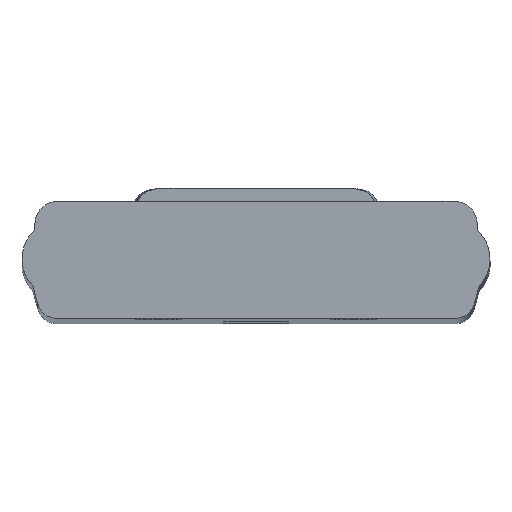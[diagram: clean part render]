
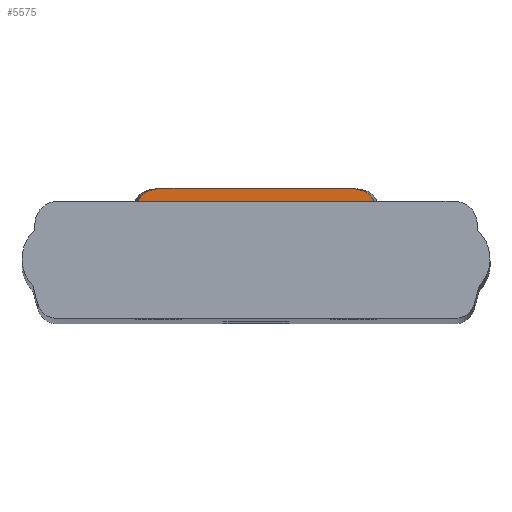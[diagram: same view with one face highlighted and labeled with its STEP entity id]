
A CAD part, top view. The second image highlights one B-rep face of the part: STEP entity #5575.
In plain terms, the highlighted planar face has unit normal (0, 0, 1).
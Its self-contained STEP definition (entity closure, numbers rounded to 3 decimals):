
#24 = DIRECTION ( 'NONE',  ( -1., 0., 0. ) ) ;
#42 = DIRECTION ( 'NONE',  ( -1., 0., 0. ) ) ;
#44 = CARTESIAN_POINT ( 'NONE',  ( 8.988, 7.422, 289.98 ) ) ;
#251 = CARTESIAN_POINT ( 'NONE',  ( 8.672, 0.753, 289.98 ) ) ;
#270 = DIRECTION ( 'NONE',  ( 1., 0., 0. ) ) ;
#405 = DIRECTION ( 'NONE',  ( 1., 0., 0. ) ) ;
#408 = DIRECTION ( 'NONE',  ( 0., 0., -1. ) ) ;
#409 = CARTESIAN_POINT ( 'NONE',  ( -8.672, 0.753, 289.98 ) ) ;
#417 = CARTESIAN_POINT ( 'NONE',  ( -8.988, 7.422, 289.98 ) ) ;
#419 = DIRECTION ( 'NONE',  ( -1., 0., 0. ) ) ;
#425 = CARTESIAN_POINT ( 'NONE',  ( -8.988, 7.422, 289.98 ) ) ;
#432 = DIRECTION ( 'NONE',  ( 0., 0., 1. ) ) ;
#437 = DIRECTION ( 'NONE',  ( -1., 0., 0. ) ) ;
#438 = DIRECTION ( 'NONE',  ( 0., 0., 1. ) ) ;
#439 = CARTESIAN_POINT ( 'NONE',  ( 9.66, 5.289, 289.98 ) ) ;
#440 = DIRECTION ( 'NONE',  ( 1., 0., 0. ) ) ;
#441 = DIRECTION ( 'NONE',  ( 0., 0., -1. ) ) ;
#442 = CARTESIAN_POINT ( 'NONE',  ( -9.66, 5.289, 289.98 ) ) ;
#677 = ORIENTED_EDGE ( 'NONE', *, *, #4524, .F. ) ;
#684 = ORIENTED_EDGE ( 'NONE', *, *, #4529, .F. ) ;
#699 = ORIENTED_EDGE ( 'NONE', *, *, #4530, .F. ) ;
#760 = ORIENTED_EDGE ( 'NONE', *, *, #4351, .T. ) ;
#761 = ORIENTED_EDGE ( 'NONE', *, *, #4527, .T. ) ;
#767 = ORIENTED_EDGE ( 'NONE', *, *, #4525, .T. ) ;
#774 = ORIENTED_EDGE ( 'NONE', *, *, #4528, .T. ) ;
#798 = ORIENTED_EDGE ( 'NONE', *, *, #4526, .T. ) ;
#1169 = EDGE_LOOP ( 'NONE', ( #677, #760, #767, #798, #761, #774, #684, #699 ) ) ;
#1548 = CARTESIAN_POINT ( 'NONE',  ( -8.988, 7.422, 289.98 ) ) ;
#1658 = CARTESIAN_POINT ( 'NONE',  ( -11.52, 6.118, 289.98 ) ) ;
#1668 = CARTESIAN_POINT ( 'NONE',  ( -8.573, 7.422, 289.98 ) ) ;
#1753 = CARTESIAN_POINT ( 'NONE',  ( 9.994, 7.298, 289.98 ) ) ;
#1762 = CARTESIAN_POINT ( 'NONE',  ( -9.994, 7.298, 289.98 ) ) ;
#1779 = CARTESIAN_POINT ( 'NONE',  ( 8.988, 7.422, 289.98 ) ) ;
#1808 = CARTESIAN_POINT ( 'NONE',  ( 8.573, 7.422, 289.98 ) ) ;
#2115 = CARTESIAN_POINT ( 'NONE',  ( 11.519, 6.121, 289.98 ) ) ;
#2432 = DIRECTION ( 'NONE',  ( 1., 0., 0. ) ) ;
#2514 = CARTESIAN_POINT ( 'NONE',  ( -19.5, 6.117, 289.98 ) ) ;
#2885 = VERTEX_POINT ( 'NONE', #1762 ) ;
#2890 = VERTEX_POINT ( 'NONE', #1753 ) ;
#2920 = VERTEX_POINT ( 'NONE', #1658 ) ;
#2929 = VERTEX_POINT ( 'NONE', #1668 ) ;
#2968 = VERTEX_POINT ( 'NONE', #1548 ) ;
#2971 = VERTEX_POINT ( 'NONE', #1779 ) ;
#3056 = VERTEX_POINT ( 'NONE', #1808 ) ;
#3079 = VERTEX_POINT ( 'NONE', #2115 ) ;
#3362 = LINE ( 'NONE', #2514, #3365 ) ;
#3365 = VECTOR ( 'NONE', #2432, 1000. ) ;
#3598 = CIRCLE ( 'NONE', #4817, 6.677 ) ;
#3601 = CIRCLE ( 'NONE', #4814, 2.037 ) ;
#3602 = CIRCLE ( 'NONE', #4815, 2.037 ) ;
#3603 = CIRCLE ( 'NONE', #4816, 6.677 ) ;
#3604 = LINE ( 'NONE', #44, #3606 ) ;
#3605 = LINE ( 'NONE', #425, #3608 ) ;
#3606 = VECTOR ( 'NONE', #42, 1000. ) ;
#3607 = LINE ( 'NONE', #417, #3610 ) ;
#3608 = VECTOR ( 'NONE', #419, 1000. ) ;
#3610 = VECTOR ( 'NONE', #270, 1000. ) ;
#4103 = FACE_OUTER_BOUND ( 'NONE', #1169, .T. ) ;
#4351 = EDGE_CURVE ( 'NONE', #2920, #3079, #3362, .T. ) ;
#4524 = EDGE_CURVE ( 'NONE', #2920, #2885, #3601, .T. ) ;
#4525 = EDGE_CURVE ( 'NONE', #3079, #2890, #3602, .T. ) ;
#4526 = EDGE_CURVE ( 'NONE', #2890, #2971, #3603, .T. ) ;
#4527 = EDGE_CURVE ( 'NONE', #2971, #3056, #3604, .T. ) ;
#4528 = EDGE_CURVE ( 'NONE', #3056, #2929, #3605, .T. ) ;
#4529 = EDGE_CURVE ( 'NONE', #2968, #2929, #3607, .T. ) ;
#4530 = EDGE_CURVE ( 'NONE', #2885, #2968, #3598, .T. ) ;
#4814 = AXIS2_PLACEMENT_3D ( 'NONE', #442, #441, #440 ) ;
#4815 = AXIS2_PLACEMENT_3D ( 'NONE', #439, #438, #437 ) ;
#4816 = AXIS2_PLACEMENT_3D ( 'NONE', #251, #432, #24 ) ;
#4817 = AXIS2_PLACEMENT_3D ( 'NONE', #409, #408, #405 ) ;
#4964 = AXIS2_PLACEMENT_3D ( 'NONE', #5291, #5201, #5267 ) ;
#5201 = DIRECTION ( 'NONE',  ( 0., 0., 1. ) ) ;
#5267 = DIRECTION ( 'NONE',  ( -1., 0., 0. ) ) ;
#5291 = CARTESIAN_POINT ( 'NONE',  ( -8.771, -0.849, 289.98 ) ) ;
#5336 = PLANE ( 'NONE',  #4964 ) ;
#5575 = ADVANCED_FACE ( 'NONE', ( #4103 ), #5336, .T. ) ;
